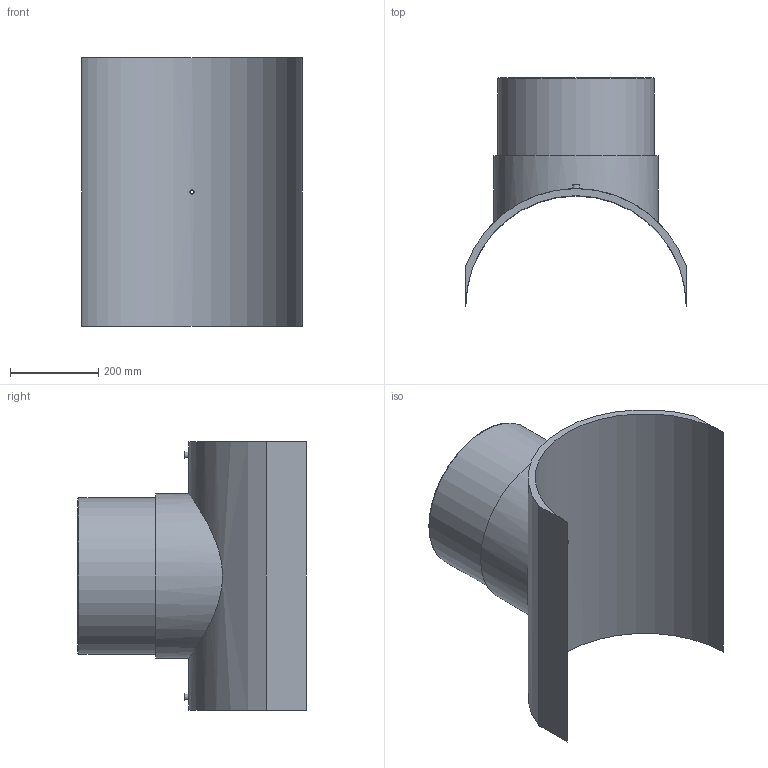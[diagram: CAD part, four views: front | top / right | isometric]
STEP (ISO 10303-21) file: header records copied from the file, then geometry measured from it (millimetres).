
FILE_DESCRIPTION(/* description */ ('PLASSON BRANCH SADDLE 500x355'),/* implementation_level */ '2;1');
FILE_NAME(/* name */ 'C:\Dropbox\KIMPROJECTS-Inventor 2019\99-16-3568-Processing\ElectroFusion Fittings\495803\stp\495803500355T.stp',/* time_stamp */ '2024-04-04T11:52:21+02:00',/* author */ ('KIM'),/* organization */ (''),/* preprocessor_version */ 'ST-DEVELOPER v17.2',/* originating_system */ 'Autodesk Inventor 2019',/* authorisation */ '');
FILE_SCHEMA (('AUTOMOTIVE_DESIGN { 1 0 10303 214 3 1 1 }'));
Length unit declared in the file: millimetre
Products named in the file (1): 495803500355T
Bounding box: 500 x 518 x 610 mm (x, y, z)
Volume: 17769961.1 mm3; surface area: 1583864.6 mm2
Topology: 1 solids, 1 shells, 29 faces, 60 edges, 43 vertices
Faces by surface type: plane 13, cylinder 12, torus 2, cone 2
Full cylindrical faces by diameter (mm): 4 x2, 9.6 x1, 10 x2, 16 x1, 284 x1, 355 x1, 372.75 x1
Entity records: 1118 total; most frequent: CARTESIAN_POINT 432, DIRECTION 139, ORIENTED_EDGE 120, EDGE_CURVE 60, AXIS2_PLACEMENT_3D 60, VERTEX_POINT 43, EDGE_LOOP 41, CIRCLE 30
